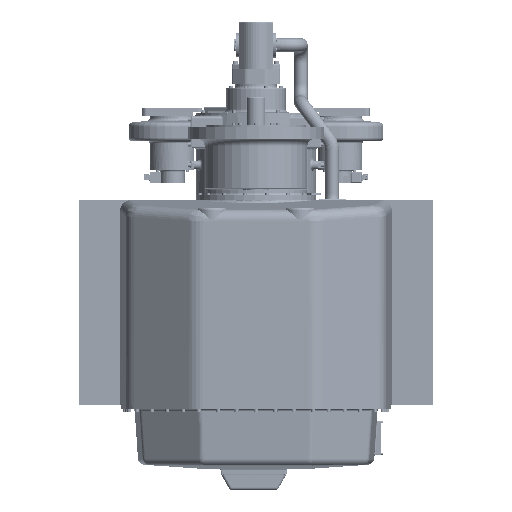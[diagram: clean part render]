
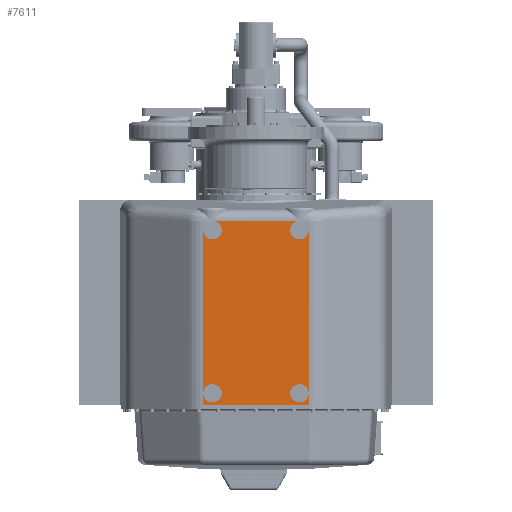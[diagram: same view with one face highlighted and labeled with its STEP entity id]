
A CAD part, front view. The second image highlights one B-rep face of the part: STEP entity #7611.
In plain terms, the highlighted planar face has unit normal (0, -1, 0).
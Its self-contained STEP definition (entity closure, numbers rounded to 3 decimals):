
#663=DIRECTION('',(-1.,0.,0.));
#664=VECTOR('',#663,459.776);
#665=CARTESIAN_POINT('',(229.888,-650.,-10.));
#666=LINE('',#665,#664);
#2211=CARTESIAN_POINT('',(190.,-650.,752.583));
#2212=DIRECTION('',(0.,-1.,0.));
#2213=DIRECTION('',(-1.,0.,0.));
#2214=AXIS2_PLACEMENT_3D('',#2211,#2212,#2213);
#2216=DIRECTION('',(0.,0.,-1.));
#2217=VECTOR('',#2216,706.604);
#2218=CARTESIAN_POINT('',(229.888,-650.,749.593));
#2219=LINE('',#2218,#2217);
#2220=CARTESIAN_POINT('',(190.,-650.,40.));
#2221=DIRECTION('',(0.,-1.,0.));
#2222=DIRECTION('',(0.997,0.,0.075));
#2223=AXIS2_PLACEMENT_3D('',#2220,#2221,#2222);
#2225=CARTESIAN_POINT('',(190.,-650.,40.));
#2226=DIRECTION('',(0.,-1.,0.));
#2227=DIRECTION('',(-1.,0.,0.));
#2228=AXIS2_PLACEMENT_3D('',#2225,#2226,#2227);
#2230=DIRECTION('',(0.,0.,-1.));
#2231=VECTOR('',#2230,47.011);
#2232=CARTESIAN_POINT('',(229.888,-650.,37.011));
#2233=LINE('',#2232,#2231);
#2234=CARTESIAN_POINT('',(-190.,-650.,40.));
#2235=DIRECTION('',(0.,-1.,0.));
#2236=DIRECTION('',(-0.997,0.,-0.075));
#2237=AXIS2_PLACEMENT_3D('',#2234,#2235,#2236);
#2239=CARTESIAN_POINT('',(-190.,-650.,40.));
#2240=DIRECTION('',(0.,-1.,0.));
#2241=DIRECTION('',(1.,0.,0.));
#2242=AXIS2_PLACEMENT_3D('',#2239,#2240,#2241);
#2244=CARTESIAN_POINT('',(-190.,-650.,752.583));
#2245=DIRECTION('',(0.,-1.,0.));
#2246=DIRECTION('',(-0.997,0.,-0.075));
#2247=AXIS2_PLACEMENT_3D('',#2244,#2245,#2246);
#2249=CARTESIAN_POINT('',(-190.,-650.,752.583));
#2250=DIRECTION('',(0.,-1.,0.));
#2251=DIRECTION('',(1.,0.,0.));
#2252=AXIS2_PLACEMENT_3D('',#2249,#2250,#2251);
#2254=CARTESIAN_POINT('',(190.,-650.,752.583));
#2255=DIRECTION('',(0.,-1.,0.));
#2256=DIRECTION('',(0.,0.,1.));
#2257=AXIS2_PLACEMENT_3D('',#2254,#2255,#2256);
#2331=DIRECTION('',(0.,0.,-1.));
#2332=VECTOR('',#2331,706.604);
#2333=CARTESIAN_POINT('',(-229.888,-650.,749.593));
#2334=LINE('',#2333,#2332);
#2335=DIRECTION('',(0.,0.,-1.));
#2336=VECTOR('',#2335,47.011);
#2337=CARTESIAN_POINT('',(-229.888,-650.,37.011));
#2338=LINE('',#2337,#2336);
#3116=DIRECTION('',(-1.,0.,0.));
#3117=VECTOR('',#3116,380.);
#3118=CARTESIAN_POINT('',(190.,-650.,792.583));
#3119=LINE('',#3118,#3117);
#4033=CARTESIAN_POINT('',(229.888,-650.,-10.));
#4034=VERTEX_POINT('',#4033);
#4035=CARTESIAN_POINT('',(-229.888,-650.,-10.));
#4036=VERTEX_POINT('',#4035);
#4273=CARTESIAN_POINT('',(150.,-650.,752.583));
#4274=CARTESIAN_POINT('',(229.888,-650.,749.593));
#4275=VERTEX_POINT('',#4273);
#4276=VERTEX_POINT('',#4274);
#4278=CARTESIAN_POINT('',(190.,-650.,792.583));
#4280=VERTEX_POINT('',#4278);
#4281=CARTESIAN_POINT('',(-229.888,-650.,749.593));
#4282=CARTESIAN_POINT('',(-150.,-650.,752.583));
#4283=VERTEX_POINT('',#4281);
#4284=VERTEX_POINT('',#4282);
#4285=CARTESIAN_POINT('',(-190.,-650.,792.583));
#4286=VERTEX_POINT('',#4285);
#4289=CARTESIAN_POINT('',(-229.888,-650.,37.011));
#4290=CARTESIAN_POINT('',(-150.,-650.,40.));
#4291=VERTEX_POINT('',#4289);
#4292=VERTEX_POINT('',#4290);
#4293=CARTESIAN_POINT('',(-229.888,-650.,42.989));
#4294=VERTEX_POINT('',#4293);
#4295=CARTESIAN_POINT('',(150.,-650.,40.));
#4296=CARTESIAN_POINT('',(229.888,-650.,37.011));
#4297=VERTEX_POINT('',#4295);
#4298=VERTEX_POINT('',#4296);
#4299=CARTESIAN_POINT('',(229.888,-650.,42.989));
#4300=VERTEX_POINT('',#4299);
#7580=CARTESIAN_POINT('',(-265.3,-650.,0.));
#7581=DIRECTION('',(0.,-1.,0.));
#7582=DIRECTION('',(1.,0.,0.));
#7583=AXIS2_PLACEMENT_3D('',#7580,#7581,#7582);
#7584=PLANE('',#7583);
#7586=ORIENTED_EDGE('',*,*,#7585,.T.);
#7587=ORIENTED_EDGE('',*,*,#7554,.T.);
#7589=ORIENTED_EDGE('',*,*,#7588,.T.);
#7591=ORIENTED_EDGE('',*,*,#7590,.T.);
#7592=ORIENTED_EDGE('',*,*,#7548,.T.);
#7593=ORIENTED_EDGE('',*,*,#5116,.T.);
#7595=ORIENTED_EDGE('',*,*,#7594,.F.);
#7597=ORIENTED_EDGE('',*,*,#7596,.T.);
#7599=ORIENTED_EDGE('',*,*,#7598,.T.);
#7601=ORIENTED_EDGE('',*,*,#7600,.F.);
#7603=ORIENTED_EDGE('',*,*,#7602,.T.);
#7605=ORIENTED_EDGE('',*,*,#7604,.T.);
#7607=ORIENTED_EDGE('',*,*,#7606,.F.);
#7608=ORIENTED_EDGE('',*,*,#7575,.T.);
#7609=EDGE_LOOP('',(#7586,#7587,#7589,#7591,#7592,#7593,#7595,#7597,#7599,#7601,
#7603,#7605,#7607,#7608));
#7610=FACE_OUTER_BOUND('',#7609,.F.);
#7611=ADVANCED_FACE('',(#7610),#7584,.T.);
#2215=CIRCLE('',#2214,40.);
#2224=CIRCLE('',#2223,40.);
#2229=CIRCLE('',#2228,40.);
#2238=CIRCLE('',#2237,40.);
#2243=CIRCLE('',#2242,40.);
#2248=CIRCLE('',#2247,40.);
#2253=CIRCLE('',#2252,40.);
#2258=CIRCLE('',#2257,40.);
#5116=EDGE_CURVE('',#4034,#4036,#666,.T.);
#7548=EDGE_CURVE('',#4298,#4034,#2233,.T.);
#7554=EDGE_CURVE('',#4276,#4300,#2219,.T.);
#7575=EDGE_CURVE('',#4280,#4275,#2258,.T.);
#7585=EDGE_CURVE('',#4275,#4276,#2215,.T.);
#7588=EDGE_CURVE('',#4300,#4297,#2224,.T.);
#7590=EDGE_CURVE('',#4297,#4298,#2229,.T.);
#7594=EDGE_CURVE('',#4291,#4036,#2338,.T.);
#7596=EDGE_CURVE('',#4291,#4292,#2238,.T.);
#7598=EDGE_CURVE('',#4292,#4294,#2243,.T.);
#7600=EDGE_CURVE('',#4283,#4294,#2334,.T.);
#7602=EDGE_CURVE('',#4283,#4284,#2248,.T.);
#7604=EDGE_CURVE('',#4284,#4286,#2253,.T.);
#7606=EDGE_CURVE('',#4280,#4286,#3119,.T.);
